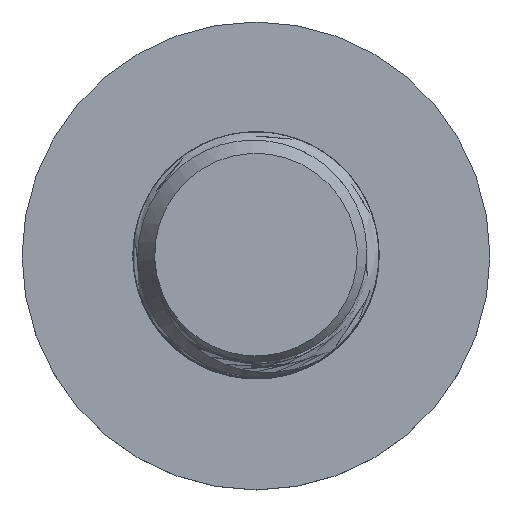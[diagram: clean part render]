
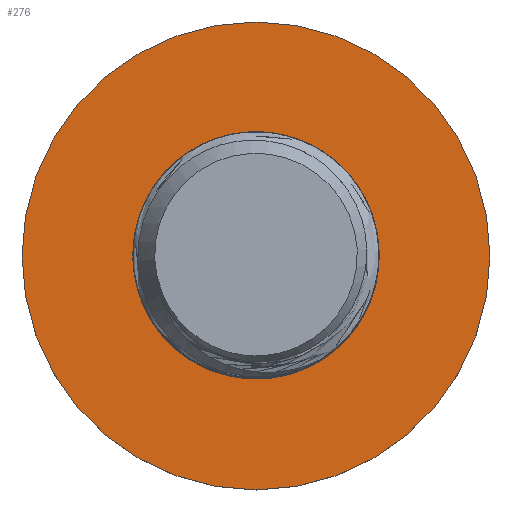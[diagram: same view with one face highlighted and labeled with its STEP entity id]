
A CAD part, top view. The second image highlights one B-rep face of the part: STEP entity #276.
In plain terms, the highlighted planar face has unit normal (0, 0, 1).
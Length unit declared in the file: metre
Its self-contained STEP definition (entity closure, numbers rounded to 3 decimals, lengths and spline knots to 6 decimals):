
#16=PLANE('',#309);
#38=CIRCLE('',#307,0.0025);
#40=CIRCLE('',#310,0.00475);
#41=CIRCLE('',#311,0.0025);
#51=ORIENTED_EDGE('',*,*,#127,.T.);
#52=ORIENTED_EDGE('',*,*,#128,.F.);
#53=ORIENTED_EDGE('',*,*,#122,.F.);
#122=EDGE_CURVE('',#160,#161,#38,.T.);
#127=EDGE_CURVE('',#165,#165,#40,.T.);
#128=EDGE_CURVE('',#161,#160,#41,.T.);
#160=VERTEX_POINT('',#401);
#161=VERTEX_POINT('',#403);
#165=VERTEX_POINT('',#683);
#227=EDGE_LOOP('',(#51));
#228=EDGE_LOOP('',(#52,#53));
#250=FACE_BOUND('',#227,.T.);
#251=FACE_BOUND('',#228,.T.);
#276=ADVANCED_FACE('',(#250,#251),#16,.F.);
#307=AXIS2_PLACEMENT_3D('',#402,#334,#335);
#309=AXIS2_PLACEMENT_3D('',#681,#338,#339);
#310=AXIS2_PLACEMENT_3D('',#682,#340,#341);
#311=AXIS2_PLACEMENT_3D('',#684,#342,#343);
#334=DIRECTION('',(0.,0.,1.));
#335=DIRECTION('',(0.,-1.,0.));
#338=DIRECTION('',(0.,0.,-1.));
#339=DIRECTION('',(1.,0.,0.));
#340=DIRECTION('',(0.,0.,1.));
#341=DIRECTION('',(0.,-1.,0.));
#342=DIRECTION('',(0.,0.,1.));
#343=DIRECTION('',(0.,-1.,0.));
#401=CARTESIAN_POINT('',(-0.060677,0.060339,0.205323));
#402=CARTESIAN_POINT('',(-0.060677,0.057839,0.205323));
#403=CARTESIAN_POINT('',(-0.0612,0.055394,0.205324));
#681=CARTESIAN_POINT('',(-0.060677,0.060339,0.205323));
#682=CARTESIAN_POINT('',(-0.060677,0.057839,0.205323));
#683=CARTESIAN_POINT('',(-0.060677,0.053089,0.205323));
#684=CARTESIAN_POINT('',(-0.060677,0.057839,0.205323));
